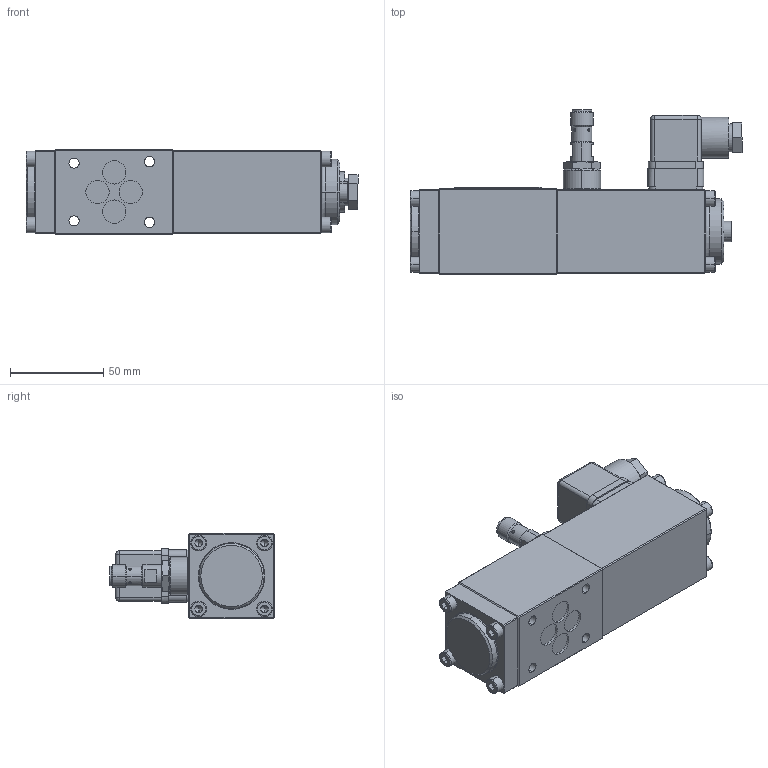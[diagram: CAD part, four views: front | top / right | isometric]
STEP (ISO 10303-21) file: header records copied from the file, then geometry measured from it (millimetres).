
FILE_DESCRIPTION (( 'STEP AP214' ), '1' );
FILE_NAME ('A.32060b-P1b.STEP', '2022-09-23T09:22:39', ( '' ), ( '' ), 'SwSTEP 2.0', 'SolidWorks 2020', '' );
FILE_SCHEMA (( 'AUTOMOTIVE_DESIGN' ));
Length unit declared in the file: millimetre
Products named in the file (1): A.32060b-P1b
Bounding box: 178.25 x 88.5 x 46 mm (x, y, z)
Volume: 370261.6 mm3; surface area: 47107.7 mm2
Topology: 1 solids, 1 shells, 491 faces, 1147 edges, 690 vertices
Faces by surface type: plane 293, cylinder 100, cone 52, bspline 24, torus 22
Entity records: 19730 total; most frequent: CARTESIAN_POINT 3381, DIRECTION 2354, ORIENTED_EDGE 2250, EDGE_CURVE 1125, AXIS2_PLACEMENT_3D 827, LINE 700, VECTOR 700, VERTEX_POINT 690
